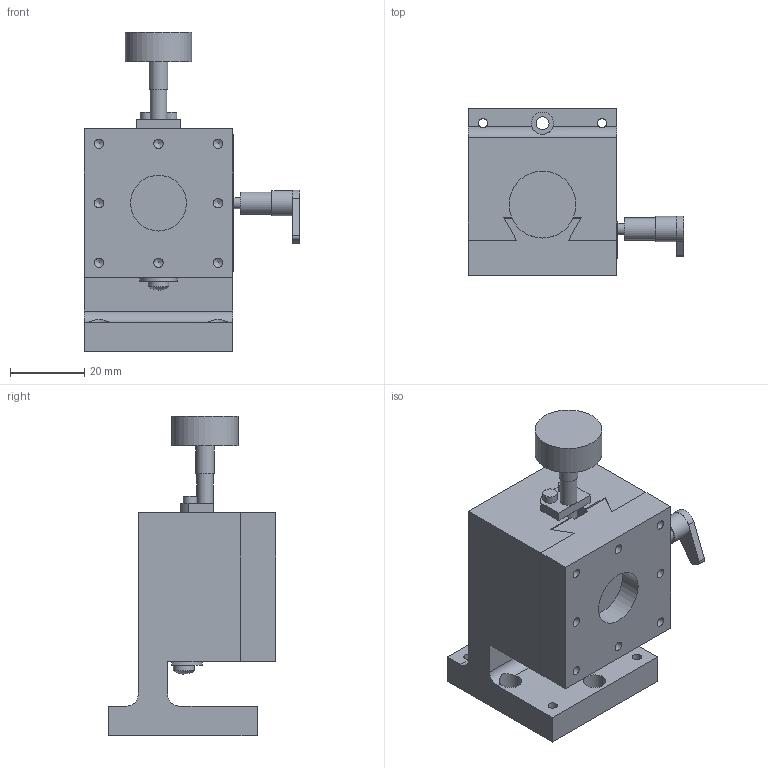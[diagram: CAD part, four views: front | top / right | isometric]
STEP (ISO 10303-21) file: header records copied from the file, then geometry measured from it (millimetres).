
FILE_DESCRIPTION( ( 'STEP AP214' ), '1' );
FILE_NAME( 'C:/Project/B05-43NR.stp', '2007-05-08T10:31:14', ( ' ' ), ( ' ' ), 'XStep 1.0', ' ', ' ' );
FILE_SCHEMA( ( 'automotive_design' ) );
Length unit declared in the file: millimetre
Products named in the file (3): 1; 2; 3
Bounding box: 58.01 x 45 x 86 mm (x, y, z)
Volume: 75973.8 mm3; surface area: 23458.5 mm2
Topology: 3 solids, 3 shells, 138 faces, 362 edges, 243 vertices
Faces by surface type: plane 82, cylinder 47, cone 8, sphere 1
Full cylindrical faces by diameter (mm): 2.5 x12, 2.6 x2, 3 x3, 3.5 x4, 3.8 x3, 4.5 x2, 5 x1, 5.6 x1, 6 x5, 6.8 x1, 15 x1, 18 x1
Entity records: 5045 total; most frequent: CARTESIAN_POINT 737, DIRECTION 659, ORIENTED_EDGE 568, EDGE_CURVE 284, AXIS2_PLACEMENT_3D 239, VERTEX_POINT 217, EDGE_LOOP 215, LINE 181
